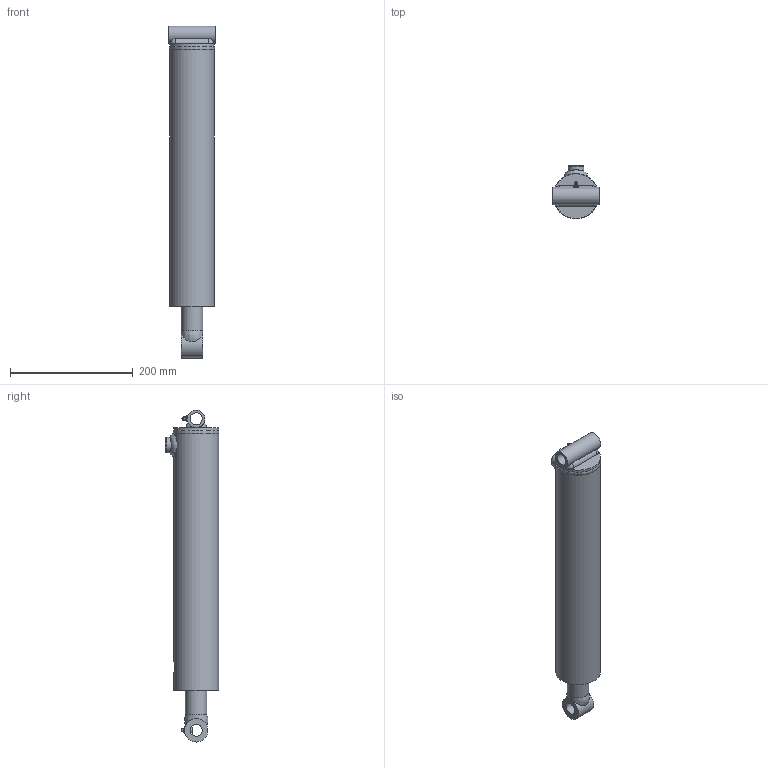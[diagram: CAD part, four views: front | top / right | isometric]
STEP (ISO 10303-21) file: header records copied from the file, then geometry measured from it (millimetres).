
FILE_DESCRIPTION((''),'2;1');
FILE_NAME('\\SRVR-ENG\EngSales\PMC-5412.stp','2013-02-12T14:00:30',('KneiflD'),(''),'Autodesk Inventor 2012','Autodesk Inventor 2012','');
FILE_SCHEMA(('AUTOMOTIVE_DESIGN { 1 0 10303 214 1 1 1 1 }'));
Length unit declared in the file: inch
Products named in the file (19): PMC-5412; 061300045; 051300070; 161300005; 200014303; 210300144; B&TWeldVest; PortWeldVest; X-tube Weld; 081300356; 020700168; 010700661; 210300202; Rod Weld; 071300016; 220000208; 270010002; 270010020; 230001250
Assembly tree (18 placements, depth 3):
  PMC-5412
    061300045
      051300070
      161300005
      200014303
      210300144
      B&TWeldVest
      PortWeldVest
      X-tube Weld
    081300356
    020700168
      010700661
      210300202
      Rod Weld
    071300016
    220000208
    270010002
    270010020
    230001250
Bounding box: 76.2 x 87.91 x 541.32 mm (x, y, z)
Volume: 1139424.1 mm3; surface area: 330930.4 mm2
Topology: 16 solids, 16 shells, 197 faces, 410 edges, 255 vertices
Faces by surface type: plane 71, cylinder 59, cone 30, torus 27, bspline 8, sphere 2
Full cylindrical faces by diameter (mm): 1.524 x1, 2.794 x2, 5.41 x1, 6.074 x1, 8.839 x1, 9.525 x1, 9.855 x1, 14.3 x1, 17.323 x1, 18.999 x1, 19.126 x1, 19.558 x1, 19.837 x1, 19.844 x1, 21.615 x1, 25.4 x2, 28.575 x1, 34.925 x1, 35.001 x2, 38.1 x1, 38.71 x1, 41.275 x2, 42.85 x1, 48.768 x1, 54.051 x1, 54.864 x1, 56.032 x1, 58.725 x1, 63.017 x2, 63.246 x2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
Entity records: 6297 total; most frequent: CARTESIAN_POINT 2001, DIRECTION 847, ORIENTED_EDGE 586, AXIS2_PLACEMENT_3D 394, EDGE_LOOP 342, EDGE_CURVE 293, VERTEX_POINT 239, FACE_OUTER_BOUND 197
